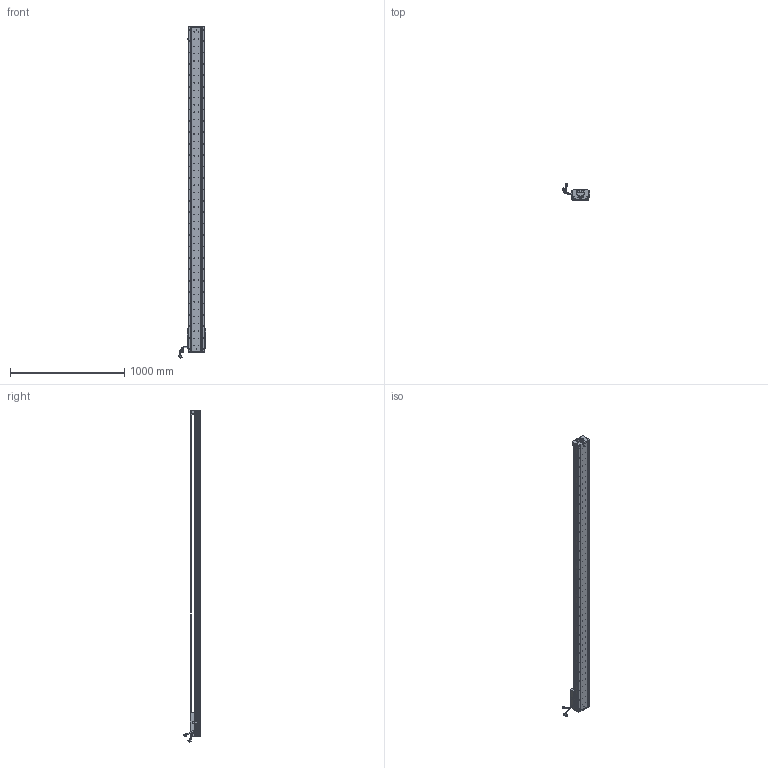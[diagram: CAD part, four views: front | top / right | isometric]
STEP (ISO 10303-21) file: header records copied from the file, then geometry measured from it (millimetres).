
FILE_DESCRIPTION (( 'STEP AP203' ), '1' );
FILE_NAME ('Z2-RY140D-1-L500-B-K.SLDASM_2600.step', '2021-05-17T07:50:24', ( '盈信电脑' ), ( '东莞市道滘镇水果街19号' ), 'SwSTEP 2.0', 'SolidWorks 2016', '' );
FILE_SCHEMA (( 'CONFIG_CONTROL_DESIGN' ));
Length unit declared in the file: millimetre
Products named in the file (36): 140雄赽晤鎢ん堤盄; HOLDER0; SCALE-Part-2; Z2-RY140D-1-L500-B-K.SLDASM_2600; 榋妏寠巭燃_暯_M2_2; SCREW-M1.6-1; Z2-RY140圉猾敕臏賑輸(21遴); SEAL; 140蚥薯蝶輸; Z-RY140詩湍狟揤裔; PBU_SHEET; 140-Z-臏賑輸盄裔(21遴); HARNESS-Part-2; 080黍杅芛假蚾釱21遴; 覜茼ん672; SEAL-Part-1; SCREW-M1.7-1; SCREW-M1.7; LABEL; Z-RY140詩湍奻揤裔; HARNESS-Part-1; Z2-RY140-L500詩湍100mm遵_2600; Z-140詩湍傷裔啣; LABEL-Part-1; SHIELDPLATE; SCALE; SCREW-M1.6; PSLH080_PSLF2; SCALE-Part-1; Z2-RY140-L500直线电机模组底座_2600; SCREW-M1.6-2; COVER-Part-1; HARNESS; SCREW-M1.6-3; COVER; Z-RY140感应器672光电感应片
Assembly tree (41 placements, depth 4):
  Z2-RY140D-1-L500-B-K.SLDASM_2600
    Z2-RY140-L500直线电机模组底座_2600
    Z-RY140感应器672光电感应片
    Z2-RY140圉猾敕臏賑輸(21遴)
    覜茼ん672  x3
    Z2-RY140-L500詩湍100mm遵_2600
    PSLH080_PSLF2
      SCALE
        SCALE-Part-1
        SCALE-Part-2
      HARNESS
        HARNESS-Part-1
        HARNESS-Part-2
      LABEL
        LABEL-Part-1
      COVER
        COVER-Part-1
      SEAL
        SEAL-Part-1
      榋妏寠巭燃_暯_M2_2
      SHIELDPLATE
      SCREW-M1.7
      SCREW-M1.7-1
      PBU_SHEET
      SCREW-M1.6
      SCREW-M1.6-1
      SCREW-M1.6-2
      SCREW-M1.6-3
      HOLDER0
    080黍杅芛假蚾釱21遴
    140-Z-臏賑輸盄裔(21遴)
    Z-140詩湍傷裔啣  x2
    Z-RY140詩湍狟揤裔  x2
    Z-RY140詩湍奻揤裔  x2
    140蚥薯蝶輸  x2
    140雄赽晤鎢ん堤盄
Bounding box: 239.79 x 143.77 x 2910.87 mm (x, y, z)
Volume: 9045662.6 mm3; surface area: 2379936.8 mm2
Topology: 36 solids, 36 shells, 4312 faces, 11784 edges, 7470 vertices
Faces by surface type: cylinder 2366, plane 1408, cone 406, torus 79, bspline 53
Entity records: 138428 total; most frequent: CARTESIAN_POINT 39810, ORIENTED_EDGE 20468, DIRECTION 18756, EDGE_CURVE 10234, AXIS2_PLACEMENT_3D 6984, VERTEX_POINT 6638, LINE 4788, VECTOR 4788
